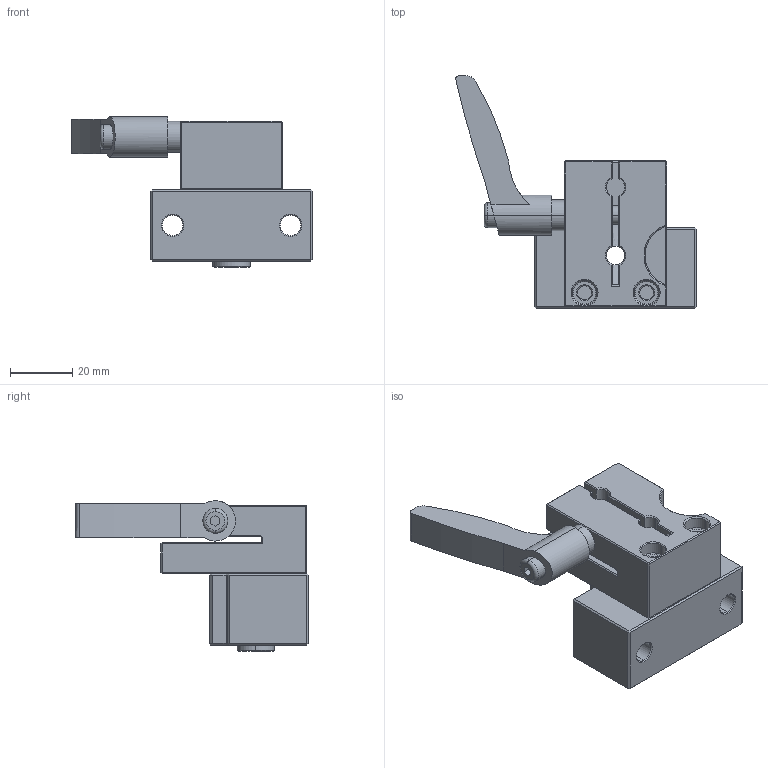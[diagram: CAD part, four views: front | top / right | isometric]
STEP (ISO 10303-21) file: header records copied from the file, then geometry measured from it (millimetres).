
FILE_DESCRIPTION (( 'STEP AP214' ), '1' );
FILE_NAME ('8.STEP', '2025-04-16T05:43:00', ( '' ), ( '' ), 'SwSTEP 2.0', 'SolidWorks 2025', '' );
FILE_SCHEMA (( 'AUTOMOTIVE_DESIGN' ));
Length unit declared in the file: millimetre
Products named in the file (10): CLDM6-32-M; CLDM6-32-M_1; SET SCREW M3 x 4L_B18.3.6M - M3 x 0.5 x 3 Hex Socket Flat Pt. SS --N_2.STEP; RN08_NUT_____ _____2.STEP; RN8 (0.75P).STEP; 8; 8번 인디게이터클램프; EK8; SET PIECE___2.3x1_____ _____2.STEP; CLDM6-32-M_2
Assembly tree (9 placements, depth 3):
  8
    8번 인디게이터클램프
    EK8
    CLDM6-32-M
      CLDM6-32-M_1
      CLDM6-32-M_2
    RN8 (0.75P).STEP
      SET PIECE___2.3x1_____ _____2.STEP
      RN08_NUT_____ _____2.STEP
      SET SCREW M3 x 4L_B18.3.6M - M3 x 0.5 x 3 Hex Socket Flat Pt. SS --N_2.STEP
Bounding box: 77.5 x 75.02 x 48.5 mm (x, y, z)
Volume: 64856.8 mm3; surface area: 26025.7 mm2
Topology: 7 solids, 11 shells, 420 faces, 926 edges, 533 vertices
Faces by surface type: plane 197, cylinder 103, cone 101, torus 16, bspline 3
Entity records: 11899 total; most frequent: CARTESIAN_POINT 2290, DIRECTION 2057, ORIENTED_EDGE 1836, EDGE_CURVE 918, AXIS2_PLACEMENT_3D 764, VERTEX_POINT 533, LINE 529, VECTOR 529
